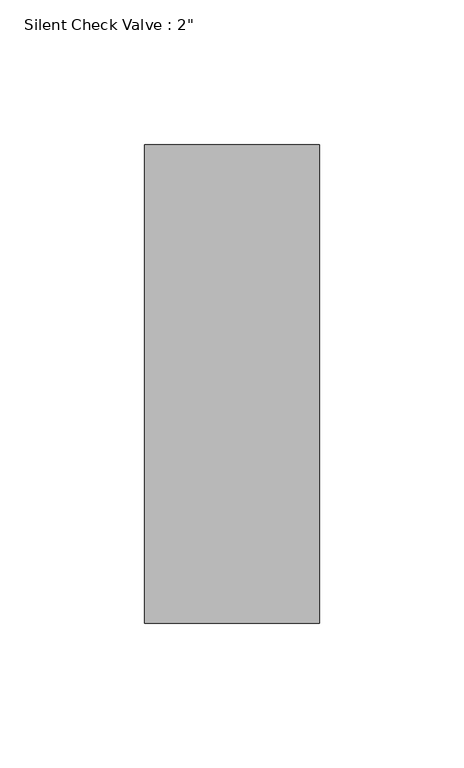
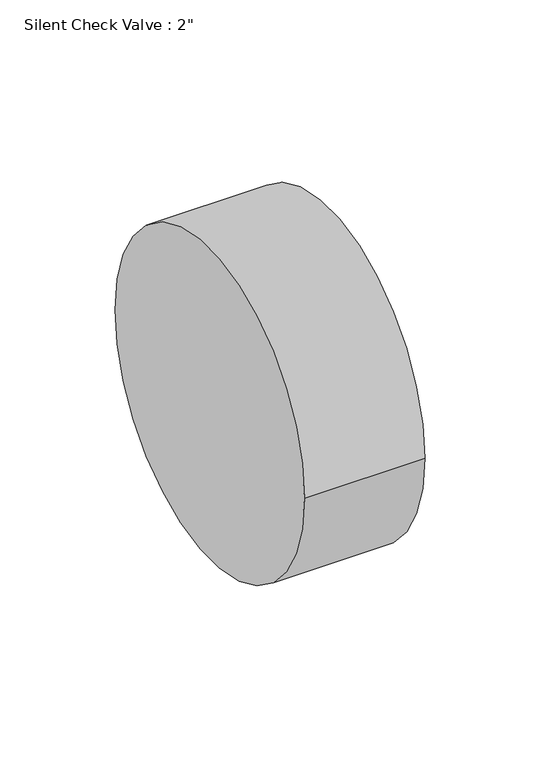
"""IFC4 building model written with IfcOpenShell, lengths in millimetres: valve geometry."""

from ifc_helpers import new_model, si_unit, point, frame, origin, origin_2d, place, context, project, spatial, circle_curve, trimmed, segment, composite_curve, outline, extrude, source, transform, mapped, element, save


def valve_9f457f20(model_context):
    return source(origin(), model_context, "Body", "SweptSolid", [
        extrude(outline(composite_curve([segment(trimmed(circle_curve(origin_2d(), 82.55), [point((-82.55, 0.0))], [point((82.55, 0.0))], False, "CARTESIAN"), True, "CONTINUOUS"), segment(trimmed(circle_curve(origin_2d(), 82.55), [point((82.55, 0.0))], [point((-82.55, 0.0))], False, "CARTESIAN"), True, "CONTINUOUS")], self_intersect=False)), frame((-30.1625, 0.0, 0.0), z_axis=(1.0, 0.0, 0.0), x_axis=(0.0, 1.0, 0.0)), (0.0, 0.0, 1.0), 60.325),
    ])


if __name__ == "__main__":
    model = new_model("IFC4")
    model_context = context("Model", 3, world=origin())
    ifc_project = project(units=[si_unit("LENGTHUNIT", "METRE", prefix="MILLI")], contexts=[model_context])
    site = spatial("IfcSite", under=ifc_project)
    building = spatial("IfcBuilding", under=site)
    placement = place(None, origin())
    valve_shape = valve_9f457f20(model_context)
    element("IfcValve", 1, ObjectType="Silent Check Valve : 2\"", at=placement, inside=building, context=model_context, shape_type="MappedRepresentation", body=[
        mapped(valve_shape, transform((0.0, 0.0, 0.0), x_axis=(1.0, 0.0, 0.0), y_axis=(0.0, 1.0, 0.0), z_axis=(0.0, 0.0, 1.0))),
    ])
    save(model, "model.ifc")
